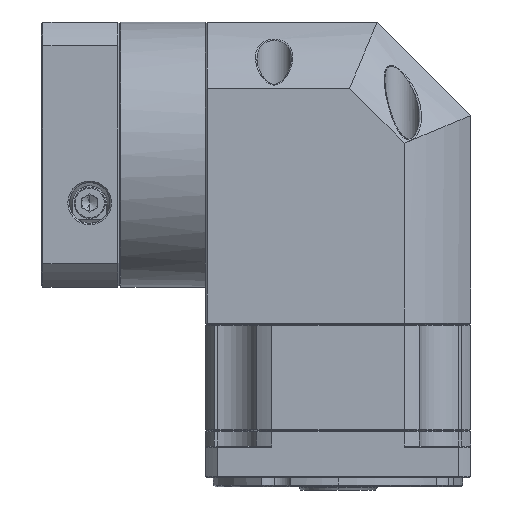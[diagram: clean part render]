
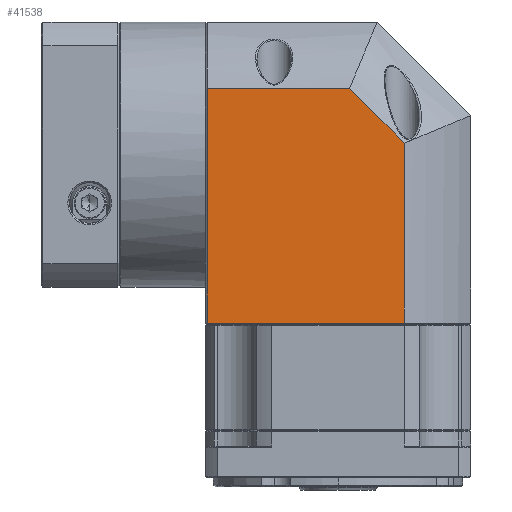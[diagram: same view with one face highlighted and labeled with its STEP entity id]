
A CAD part, left-side view. The second image highlights one B-rep face of the part: STEP entity #41538.
In plain terms, the highlighted planar face has unit normal (-1, 0, 0).
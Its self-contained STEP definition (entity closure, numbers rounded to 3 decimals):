
#3723 = FACE_OUTER_BOUND ( 'NONE', #57030, .T. ) ;
#7546 = PLANE ( 'NONE',  #43248 ) ;
#7632 = VECTOR ( 'NONE', #68498, 1000. ) ;
#8606 = CARTESIAN_POINT ( 'NONE',  ( -73.151, 67.549, -61.434 ) ) ;
#15106 = EDGE_CURVE ( 'NONE', #86378, #77422, #29182, .T. ) ;
#18837 = ORIENTED_EDGE ( 'NONE', *, *, #98274, .F. ) ;
#19689 = CARTESIAN_POINT ( 'NONE',  ( -73.151, 3.836, -3.751 ) ) ;
#29182 = LINE ( 'NONE', #97109, #40567 ) ;
#31925 = CARTESIAN_POINT ( 'NONE',  ( -73.151, 67.049, -61.434 ) ) ;
#32610 = ORIENTED_EDGE ( 'NONE', *, *, #100458, .T. ) ;
#40567 = VECTOR ( 'NONE', #46251, 1000. ) ;
#41538 = ADVANCED_FACE ( 'NONE', ( #3723 ), #7546, .F. ) ;
#42887 = VECTOR ( 'NONE', #92029, 1000. ) ;
#43248 = AXIS2_PLACEMENT_3D ( 'NONE', #99895, #110241, #90429 ) ;
#46251 = DIRECTION ( 'NONE',  ( 0., 0., 1. ) ) ;
#48851 = CARTESIAN_POINT ( 'NONE',  ( -73.151, 3.836, -61.434 ) ) ;
#51105 = EDGE_CURVE ( 'NONE', #77422, #132848, #102463, .T. ) ;
#51128 = DIRECTION ( 'NONE',  ( 0., -1., 0. ) ) ;
#54863 = EDGE_CURVE ( 'NONE', #132848, #79790, #122301, .T. ) ;
#57030 = EDGE_LOOP ( 'NONE', ( #32610, #18837, #86594, #104968, #63354 ) ) ;
#58978 = LINE ( 'NONE', #81236, #42887 ) ;
#63354 = ORIENTED_EDGE ( 'NONE', *, *, #15106, .F. ) ;
#68498 = DIRECTION ( 'NONE',  ( 0., -1., 0. ) ) ;
#68563 = VECTOR ( 'NONE', #51128, 1000. ) ;
#77422 = VERTEX_POINT ( 'NONE', #91897 ) ;
#79790 = VERTEX_POINT ( 'NONE', #19689 ) ;
#81236 = CARTESIAN_POINT ( 'NONE',  ( -73.151, 3.836, 38.566 ) ) ;
#85207 = DIRECTION ( 'NONE',  ( 0., -0.707, -0.707 ) ) ;
#86378 = VERTEX_POINT ( 'NONE', #31925 ) ;
#86594 = ORIENTED_EDGE ( 'NONE', *, *, #54863, .F. ) ;
#86723 = CARTESIAN_POINT ( 'NONE',  ( -73.151, 21.366, 13.779 ) ) ;
#90429 = DIRECTION ( 'NONE',  ( 0., 1., 0. ) ) ;
#91897 = CARTESIAN_POINT ( 'NONE',  ( -73.151, 67.049, 13.779 ) ) ;
#92029 = DIRECTION ( 'NONE',  ( 0., 0., -1. ) ) ;
#96890 = CARTESIAN_POINT ( 'NONE',  ( -73.151, 21.366, 13.779 ) ) ;
#97109 = CARTESIAN_POINT ( 'NONE',  ( -73.151, 67.049, 35.066 ) ) ;
#98274 = EDGE_CURVE ( 'NONE', #79790, #111461, #58978, .T. ) ;
#99895 = CARTESIAN_POINT ( 'NONE',  ( -73.151, 67.549, 35.066 ) ) ;
#100458 = EDGE_CURVE ( 'NONE', #86378, #111461, #117212, .T. ) ;
#102416 = CARTESIAN_POINT ( 'NONE',  ( -73.151, 67.549, 13.779 ) ) ;
#102463 = LINE ( 'NONE', #102416, #68563 ) ;
#104968 = ORIENTED_EDGE ( 'NONE', *, *, #51105, .F. ) ;
#110241 = DIRECTION ( 'NONE',  ( 1., 0., 0. ) ) ;
#111461 = VERTEX_POINT ( 'NONE', #48851 ) ;
#117212 = LINE ( 'NONE', #8606, #7632 ) ;
#117464 = VECTOR ( 'NONE', #85207, 1000. ) ;
#122301 = LINE ( 'NONE', #96890, #117464 ) ;
#132848 = VERTEX_POINT ( 'NONE', #86723 ) ;
